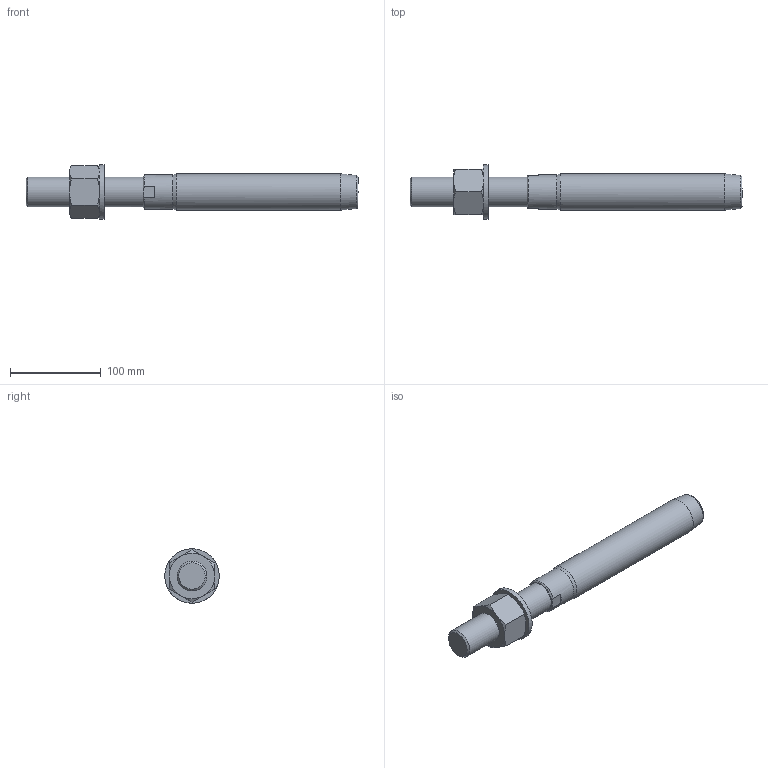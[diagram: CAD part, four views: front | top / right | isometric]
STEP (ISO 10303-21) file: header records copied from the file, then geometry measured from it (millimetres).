
FILE_DESCRIPTION(/* description */ (''),/* implementation_level */ '2;1');
FILE_NAME(/* name */ 'FLT 22_42CrMo4',/* time_stamp */ '2023-05-23T15:57:52+02:00',/* author */ (''),/* organization */ (''),/* preprocessor_version */ 'ST-DEVELOPER v16.5',/* originating_system */ 'Rhino 7.22',/* authorisation */ '');
FILE_SCHEMA (('CONFIG_CONTROL_DESIGN'));
Length unit declared in the file: millimetre
Products named in the file (1): Document
Bounding box: 366 x 59.92 x 60 mm (x, y, z)
Volume: 459447.1 mm3; surface area: 61417.5 mm2
Topology: 3 solids, 3 shells, 42 faces, 103 edges, 68 vertices
Faces by surface type: bspline 19, plane 17, cylinder 6
Full cylindrical faces by diameter (mm): 29.211 x1, 33 x1, 34 x1, 38.1 x1, 40 x1, 60 x1
Entity records: 1563 total; most frequent: CARTESIAN_POINT 861, ORIENTED_EDGE 206, EDGE_CURVE 103, VERTEX_POINT 68, EDGE_LOOP 47, ADVANCED_FACE 42, FACE_OUTER_BOUND 42, DIRECTION 27
